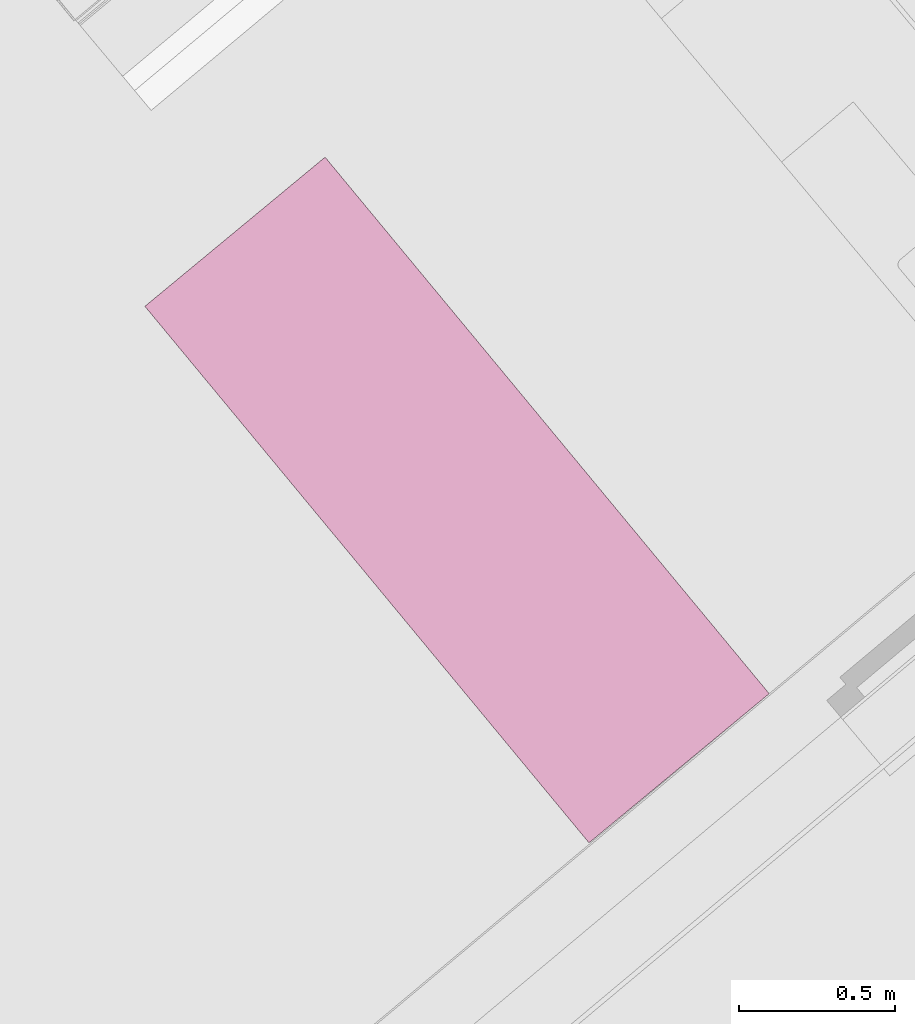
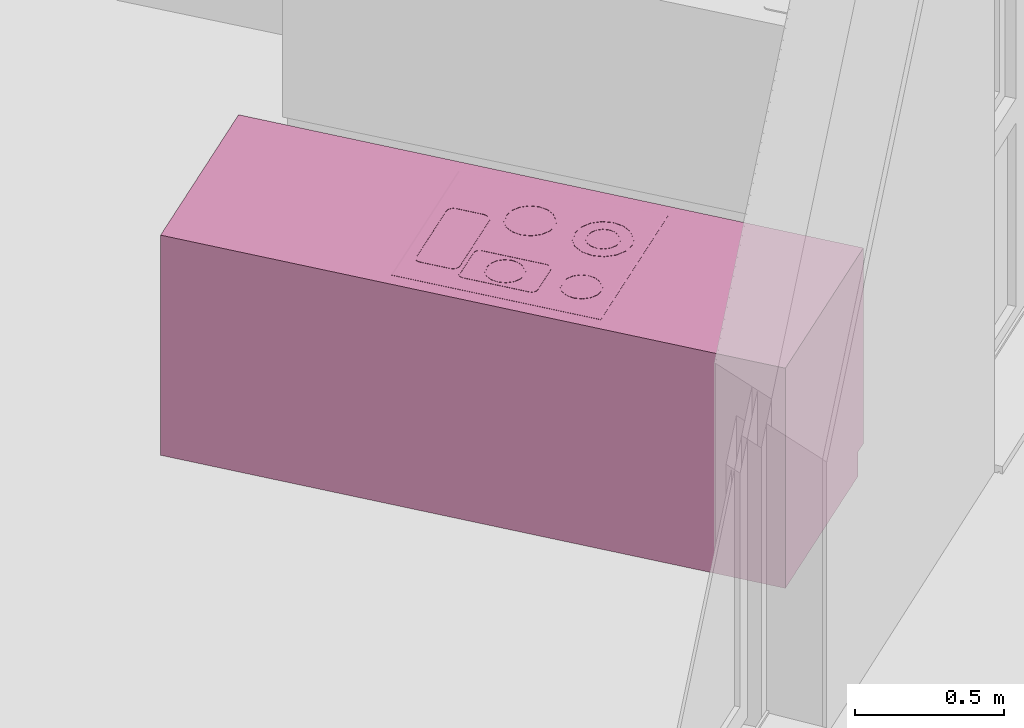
# One storey, part 49 of 50: 1 furniture element.
"""IFC4 building model written with IfcOpenShell, lengths in metres."""

import ifcopenshell
import ifcopenshell.guid

model = None  # the IFC model being written
_history = None  # IfcOwnerHistory: only IFC2X3 demands one
_inside = {}  # id of a spatial element -> (the spatial element, [elements in it])
_under = {}  # id of a project, library or spatial element -> (it, [spatial elements below it])
_declared = {}  # id of a project -> (the project, [libraries it declares])
_typed = {}  # id of a type object -> (the type object, [elements of that type])
_made_of = {}  # id of a material, layer set ... -> (it, [elements and type objects made of it])


def new_model(schema):
    """Start an empty IFC model of exactly this schema.

    Asked for "IFC4X3", IfcOpenShell would pick the latest addendum, in which some entities
    have other attributes; the version numbers below select the first issue.
    IFC2X3 requires an IfcOwnerHistory on every rooted entity: one is made here for all.
    """
    global model, _history
    if schema == "IFC4X3":
        model = ifcopenshell.file(schema_version=(4, 3, 0, 0))
    else:
        model = ifcopenshell.file(schema=schema)
    _inside.clear()
    _under.clear()
    _declared.clear()
    _typed.clear()
    _made_of.clear()
    _history = None
    if model.schema == "IFC2X3":
        org = make("IfcOrganization", Name="unknown")
        user = make(
            "IfcPersonAndOrganization",
            ThePerson=make("IfcPerson", FamilyName="unknown"),
            TheOrganization=org,
        )
        app = make(
            "IfcApplication",
            ApplicationDeveloper=org,
            Version="unknown",
            ApplicationFullName="unknown",
            ApplicationIdentifier="unknown",
        )
        _history = make(
            "IfcOwnerHistory",
            OwningUser=user,
            OwningApplication=app,
            ChangeAction="ADDED",
            CreationDate=0,
        )
    return model


def make(cls, **values):
    """One entity of the class cls with the attributes given. An attribute that is None is left unset."""
    return model.create_entity(
        cls, **{name: value for name, value in values.items() if value is not None}
    )


def entity(cls, *values):
    """Any entity or typed value of the class cls, its attributes in the order of the schema. None: left unset."""
    e = model.create_entity(cls)
    for i, value in enumerate(values):
        if value is not None:
            e[i] = value
    return e


def rooted(cls, **values):
    """An entity with a GlobalId (a new one), such as an element, a storey or a relation."""
    return make(cls, GlobalId=ifcopenshell.guid.new(), OwnerHistory=_history, **values)


def si_unit(unit_type, name, prefix=None):
    """IfcSIUnit, for example si_unit("LENGTHUNIT", "METRE", prefix="MILLI")."""
    return make("IfcSIUnit", UnitType=unit_type, Prefix=prefix, Name=name)


def converted_unit(unit_type, name, factor, base, dimensions=None, offset=None):
    """IfcConversionBasedUnit, such as the inch: factor (a typed value) times the base unit."""
    return make(
        "IfcConversionBasedUnit"
        if offset is None
        else "IfcConversionBasedUnitWithOffset",
        ConversionOffset=offset,
        Dimensions=None
        if dimensions is None
        else entity("IfcDimensionalExponents", *dimensions),
        UnitType=unit_type,
        Name=name,
        ConversionFactor=make(
            "IfcMeasureWithUnit", ValueComponent=factor, UnitComponent=base
        ),
    )


def derived_unit(unit_type, elements):
    """IfcDerivedUnit: a product of units, each with its exponent."""
    return make(
        "IfcDerivedUnit",
        Elements=[
            make("IfcDerivedUnitElement", Unit=unit, Exponent=power)
            for unit, power in elements
        ],
        UnitType=unit_type,
    )


def assignment(units):
    """IfcUnitAssignment: the units of a project."""
    return None if units is None else make("IfcUnitAssignment", Units=units)


def point(xyz):
    """IfcCartesianPoint."""
    return None if xyz is None else make("IfcCartesianPoint", Coordinates=xyz)


def direction(xyz):
    """IfcDirection."""
    return None if xyz is None else make("IfcDirection", DirectionRatios=xyz)


def frame(location, z_axis=None, x_axis=None):
    """IfcAxis2Placement3D, a coordinate frame: its origin and axes. An axis left out is left unset."""
    return make(
        "IfcAxis2Placement3D",
        Location=point(location),
        Axis=direction(z_axis),
        RefDirection=direction(x_axis),
    )


def origin_with_axes():
    """The frame at (0, 0, 0) with the z axis (0, 0, 1) and the x axis (1, 0, 0) written out."""
    return frame((0.0, 0.0, 0.0), z_axis=(0.0, 0.0, 1.0), x_axis=(1.0, 0.0, 0.0))


def place(relative_to, where):
    """IfcLocalPlacement: puts the frame where relative to a parent placement (None: the world)."""
    return make(
        "IfcLocalPlacement", PlacementRelTo=relative_to, RelativePlacement=where
    )


def context(
    kind, dimensions, precision=None, world=None, true_north=None, identifier=None
):
    """IfcGeometricRepresentationContext, for example the 3D "Model" context."""
    return make(
        "IfcGeometricRepresentationContext",
        ContextIdentifier=identifier,
        ContextType=kind,
        CoordinateSpaceDimension=dimensions,
        Precision=precision,
        WorldCoordinateSystem=world,
        TrueNorth=true_north,
    )


def subcontext(parent, identifier, kind, view, scale=None):
    """IfcGeometricRepresentationSubContext, for example "Body" below "Model"."""
    return make(
        "IfcGeometricRepresentationSubContext",
        ContextIdentifier=identifier,
        ContextType=kind,
        ParentContext=parent,
        TargetScale=scale,
        TargetView=view,
    )


def project(units=None, contexts=None):
    """IfcProject with its units and contexts."""
    return rooted(
        "IfcProject",
        Name="project",
        RepresentationContexts=contexts,
        UnitsInContext=assignment(units),
    )


def spatial(cls, under=None, at=None, **own):
    """A site, building, storey or space (cls), placed at a placement, below another one or the project."""
    s = rooted(cls, ObjectPlacement=at, **own)
    if under is not None:
        _under.setdefault(under.id(), (under, []))[1].append(s)
    return s


def point_list(points):
    """IfcCartesianPointList2D or 3D."""
    cls = (
        "IfcCartesianPointList2D" if len(points[0]) == 2 else "IfcCartesianPointList3D"
    )
    return make(cls, CoordList=points)


def polygons(points, faces, closed=None, point_numbers=None):
    """IfcPolygonalFaceSet: a face is its outer loop, then its inner loops; points numbered from 1."""
    made = []
    for loops in faces:
        if len(loops) == 1:
            made.append(make("IfcIndexedPolygonalFace", CoordIndex=loops[0]))
        else:
            made.append(
                make(
                    "IfcIndexedPolygonalFaceWithVoids",
                    CoordIndex=loops[0],
                    InnerCoordIndices=loops[1:],
                )
            )
    return make(
        "IfcPolygonalFaceSet",
        Coordinates=point_list(points),
        Closed=closed,
        Faces=made,
        PnIndex=point_numbers,
    )


def shape(context_of_items, identifier, shape_type, items):
    """IfcShapeRepresentation: the items that make up one representation, for example the "Body"."""
    return make(
        "IfcShapeRepresentation",
        ContextOfItems=context_of_items,
        RepresentationIdentifier=identifier,
        RepresentationType=shape_type,
        Items=items,
    )


def source(mapping_origin, context_of_items, identifier, shape_type, items):
    """IfcRepresentationMap: a shape defined once, which mapped items show again and again."""
    return make(
        "IfcRepresentationMap",
        MappingOrigin=mapping_origin,
        MappedRepresentation=shape(context_of_items, identifier, shape_type, items),
    )


def transform(
    local_origin,
    x_axis=None,
    y_axis=None,
    z_axis=None,
    scale=None,
    scale2=None,
    scale3=None,
    uniform=True,
):
    """IfcCartesianTransformationOperator3D, or its non-uniform kind. x_axis, y_axis, z_axis: its Axis1, 2, 3."""
    if uniform:
        return make(
            "IfcCartesianTransformationOperator3D",
            Axis1=direction(x_axis),
            Axis2=direction(y_axis),
            LocalOrigin=point(local_origin),
            Scale=scale,
            Axis3=direction(z_axis),
        )
    return make(
        "IfcCartesianTransformationOperator3DnonUniform",
        Axis1=direction(x_axis),
        Axis2=direction(y_axis),
        LocalOrigin=point(local_origin),
        Scale=scale,
        Axis3=direction(z_axis),
        Scale2=scale2,
        Scale3=scale3,
    )


def mapped(mapping_source, mapping_target):
    """IfcMappedItem: shows the shape of a source again, moved by a transform."""
    return make(
        "IfcMappedItem", MappingSource=mapping_source, MappingTarget=mapping_target
    )


def made_of(thing, what):
    """Note that an element or type object is made of a material, layer set ...; save() writes the relation."""
    if what is not None:
        _made_of.setdefault(what.id(), (what, []))[1].append(thing)
    return thing


def type_object(cls, material=None, **own):
    """A type object (cls), such as IfcWallType, which elements share."""
    return made_of(rooted(cls, **own), material)


def element(
    cls,
    number,
    at=None,
    inside=None,
    cuts=None,
    type_object=None,
    material=None,
    context=None,
    identifier="Body",
    shape_type=None,
    held_by="IfcProductDefinitionShape",
    body=None,
    shapes=None,
    **own,
):
    """One element of the class cls, such as IfcWall. Its Tag is "e" and its number.

    at: its placement. inside: the storey or other place that contains it. cuts: it is an
    opening in that element (IfcRelVoidsElement). A single representation is given by context,
    identifier, shape_type and body (its items); several are given by shapes. held_by: the class
    of the entity that holds the representations. save() writes the other relations.
    """
    e = rooted(cls, Tag="e%d" % number, ObjectPlacement=at, **own)
    if body is not None:
        shapes = [shape(context, identifier, shape_type, body)]
    if shapes is not None:
        e.Representation = make(held_by, Representations=shapes)
    if inside is not None:
        _inside.setdefault(inside.id(), (inside, []))[1].append(e)
    if cuts is not None:
        rooted(
            "IfcRelVoidsElement", RelatingBuildingElement=cuts, RelatedOpeningElement=e
        )
    if type_object is not None:
        _typed.setdefault(type_object.id(), (type_object, []))[1].append(e)
    return made_of(e, material)


def aggregate(whole, parts):
    """IfcRelAggregates: a whole, such as a stair, and the parts it consists of."""
    return rooted("IfcRelAggregates", RelatingObject=whole, RelatedObjects=parts)


def save(model, path):
    """Write the relations noted so far, then the file.

    IfcRelAggregates (storeys below a building ...), IfcRelContainedInSpatialStructure (elements
    in a storey), IfcRelDefinesByType, IfcRelAssociatesMaterial and IfcRelDeclares: one each for
    every whole, place, type object, material and project.
    """
    for whole, parts in _under.values():
        aggregate(whole, parts)
    for where, things in _inside.values():
        rooted(
            "IfcRelContainedInSpatialStructure",
            RelatedElements=things,
            RelatingStructure=where,
        )
    for kind, things in _typed.values():
        rooted("IfcRelDefinesByType", RelatedObjects=things, RelatingType=kind)
    for what, things in _made_of.values():
        rooted("IfcRelAssociatesMaterial", RelatedObjects=things, RelatingMaterial=what)
    for by, libraries in _declared.values():
        rooted("IfcRelDeclares", RelatingContext=by, RelatedDefinitions=libraries)
    model.write(path)


model = new_model("IFC4")

# Units and contexts
model_context = context("Model", 3, precision=1e-05, world=origin_with_axes(), true_north=direction((0.0, 1.0)))
body_context = subcontext(model_context, "Body", "Model", "MODEL_VIEW")
ifc_project = project(units=[si_unit("LENGTHUNIT", "METRE"), si_unit("AREAUNIT", "SQUARE_METRE"), si_unit("VOLUMEUNIT", "CUBIC_METRE"), converted_unit("PLANEANGLEUNIT", "DEGREE", entity("IfcPlaneAngleMeasure", 0.0174532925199), si_unit("PLANEANGLEUNIT", "RADIAN"), dimensions=[0, 0, 0, 0, 0, 0, 0]), converted_unit("TIMEUNIT", "Year", entity("IfcTimeMeasure", 31556926.0), si_unit("TIMEUNIT", "SECOND"), dimensions=[0, 0, 1, 0, 0, 0, 0]), si_unit("MASSUNIT", "GRAM", prefix="KILO"), si_unit("THERMODYNAMICTEMPERATUREUNIT", "DEGREE_CELSIUS"), si_unit("LUMINOUSINTENSITYUNIT", "LUMEN"), si_unit("ENERGYUNIT", "JOULE", prefix="MEGA"), derived_unit("THERMALCONDUCTANCEUNIT", [(si_unit("POWERUNIT", "WATT"), 1), (si_unit("LENGTHUNIT", "METRE"), -1), (si_unit("THERMODYNAMICTEMPERATUREUNIT", "KELVIN"), -1)]), derived_unit("SPECIFICHEATCAPACITYUNIT", [(si_unit("ENERGYUNIT", "JOULE"), 1), (si_unit("MASSUNIT", "GRAM", prefix="KILO"), -1), (si_unit("THERMODYNAMICTEMPERATUREUNIT", "KELVIN"), -1)]), derived_unit("MASSDENSITYUNIT", [(si_unit("MASSUNIT", "GRAM", prefix="KILO"), 1), (si_unit("VOLUMEUNIT", "CUBIC_METRE"), -1)])], contexts=[model_context])

# Site, building, storey, space
site_placement = place(None, frame((-0.00153261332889, -0.00661245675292, 0.0), z_axis=(0.0, 0.0, 1.0), x_axis=(1.0, 0.0, 0.0)))
site = spatial("IfcSite", under=ifc_project, at=site_placement, Name="Gelände", CompositionType="ELEMENT")
building_placement = place(site_placement, origin_with_axes())
building = spatial("IfcBuilding", under=site, at=building_placement, Name="Gebäude", CompositionType="ELEMENT")
storey_placement = place(building_placement, frame((0.0, 0.0, 8.66), z_axis=(0.0, 0.0, 1.0), x_axis=(1.0, 0.0, 0.0)))
storey = spatial("IfcBuildingStorey", under=building, at=storey_placement, Name="DG2", CompositionType="ELEMENT", Elevation=8.66)
space_placement = place(storey_placement, frame((-3.1056460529, 21.2099336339, 0.22), z_axis=(0.0, 0.0, 1.0), x_axis=(-0.767365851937, -0.641209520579, 0.0)))
space = spatial("IfcSpace", under=storey, at=space_placement, CompositionType="ELEMENT", PredefinedType="NOTDEFINED")

# Furniture
furniture_type = type_object("IfcFurnitureType", Name="Konzeptküche 26", AssemblyPlace="NOTDEFINED", PredefinedType="NOTDEFINED")
shared_shape = source(origin_with_axes(), body_context, "Body", "Tessellation", [
    polygons([(0.451386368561, 0.0111886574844, 0.0), (2.6840690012, -0.00300580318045, 0.0), (2.6840690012, -0.00300580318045, 0.1), (0.451386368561, 0.0111886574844, 0.1), (0.455836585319, 0.711174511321, 0.0), (2.68851921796, 0.696980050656, 0.0), (2.68851921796, 0.696980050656, 0.1), (0.455836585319, 0.711174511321, 0.1)], [[[1, 2, 3, 4]], [[1, 5, 6, 2]], [[2, 6, 7, 3]], [[4, 3, 7, 8]], [[5, 1, 4, 8]], [[6, 5, 8, 7]]], closed=True),
    polygons([(0.451386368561, 0.0111886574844, 0.85), (2.6840690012, -0.00300580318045, 0.85), (2.6840690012, -0.00300580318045, 0.9), (0.451386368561, 0.0111886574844, 0.9), (0.456154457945, 0.76117350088, 0.85), (2.68883709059, 0.746979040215, 0.85), (2.68883709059, 0.746979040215, 0.9), (0.456154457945, 0.76117350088, 0.9)], [[[1, 2, 3, 4]], [[1, 5, 6, 2]], [[2, 6, 7, 3]], [[4, 3, 7, 8]], [[5, 1, 4, 8]], [[6, 5, 8, 7]]], closed=True),
    polygons([(0.451386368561, 0.0111886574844, 0.1), (2.6840690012, -0.00300580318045, 0.1), (2.6840690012, -0.00300580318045, 0.85), (0.451386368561, 0.0111886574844, 0.85), (0.456154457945, 0.76117350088, 0.1), (2.68883709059, 0.746979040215, 0.1), (2.68883709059, 0.746979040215, 0.85), (0.456154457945, 0.76117350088, 0.85)], [[[1, 2, 3, 4]], [[1, 5, 6, 2]], [[2, 6, 7, 3]], [[4, 3, 7, 8]], [[5, 1, 4, 8]], [[6, 5, 8, 7]]], closed=True),
    polygons([(2.01007115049, 0.701293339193, 0.9), (2.00593880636, 0.0513064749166, 0.9), (1.25595396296, 0.0560745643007, 0.9), (1.26008630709, 0.706061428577, 0.9), (2.01007115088, 0.70129333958, 0.9008), (2.00593880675, 0.0513064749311, 0.9008), (1.25595396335, 0.0560745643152, 0.9008), (1.26008630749, 0.706061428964, 0.9008), (2.00322248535, 0.694531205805, 0.901999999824), (1.99917667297, 0.0581551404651, 0.901999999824), (1.26280262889, 0.0628366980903, 0.901999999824), (1.26684844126, 0.69921276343, 0.901999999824)], [[[1, 2, 3, 4]], [[2, 1, 5, 6]], [[3, 2, 6, 7]], [[4, 3, 7, 8]], [[1, 4, 8, 5]], [[6, 5, 9, 10]], [[7, 6, 10, 11]], [[8, 7, 11, 12]], [[5, 8, 12, 9]], [[11, 10, 9, 12]]], closed=True),
    polygons([(1.95268579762, 0.208298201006, 0.902), (1.94734355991, 0.236077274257, 0.902), (1.94734355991, 0.236077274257, 0.903), (1.95268579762, 0.208298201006, 0.903), (1.9469907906, 0.180589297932, 0.902), (1.93112555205, 0.157168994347, 0.902), (1.9075054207, 0.141602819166, 0.902), (1.87972634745, 0.136260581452, 0.902), (1.85201744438, 0.141955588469, 0.902), (1.82859714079, 0.157820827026, 0.902), (1.81303096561, 0.181440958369, 0.902), (1.8076887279, 0.20922003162, 0.902), (1.81338373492, 0.236928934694, 0.902), (1.82924897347, 0.260349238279, 0.902), (1.85286910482, 0.275915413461, 0.902), (1.88064817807, 0.281257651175, 0.902), (1.90835708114, 0.275562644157, 0.902), (1.93177738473, 0.259697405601, 0.902), (1.94768589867, 0.208329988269, 0.902), (1.94271209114, 0.234193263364, 0.902), (1.92821944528, 0.256184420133, 0.902), (1.90641433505, 0.270955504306, 0.902), (1.8806163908, 0.276257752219, 0.902), (1.85475311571, 0.271283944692, 0.902), (1.83276195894, 0.256791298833, 0.902), (1.81799087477, 0.234986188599, 0.902), (1.81268862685, 0.209188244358, 0.902), (1.81766243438, 0.183324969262, 0.902), (1.83215508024, 0.161333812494, 0.902), (1.85396019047, 0.146562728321, 0.902), (1.87975813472, 0.141260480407, 0.902), (1.90562140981, 0.146234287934, 0.902), (1.92761256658, 0.160726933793, 0.902), (1.94238365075, 0.182532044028, 0.902), (1.93177738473, 0.259697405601, 0.903), (1.90835708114, 0.275562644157, 0.903), (1.88064817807, 0.281257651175, 0.903), (1.85286910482, 0.275915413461, 0.903), (1.82924897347, 0.260349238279, 0.903), (1.81338373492, 0.236928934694, 0.903), (1.8076887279, 0.20922003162, 0.903), (1.81303096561, 0.181440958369, 0.903), (1.82859714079, 0.157820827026, 0.903), (1.85201744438, 0.141955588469, 0.903), (1.87972634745, 0.136260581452, 0.903), (1.9075054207, 0.141602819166, 0.903), (1.93112555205, 0.157168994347, 0.903), (1.9469907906, 0.180589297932, 0.903), (1.94768589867, 0.208329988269, 0.903), (1.94238365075, 0.182532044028, 0.903), (1.92761256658, 0.160726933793, 0.903), (1.90562140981, 0.146234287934, 0.903), (1.87975813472, 0.141260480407, 0.903), (1.85396019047, 0.146562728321, 0.903), (1.83215508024, 0.161333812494, 0.903), (1.81766243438, 0.183324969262, 0.903), (1.81268862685, 0.209188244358, 0.903), (1.81799087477, 0.234986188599, 0.903), (1.83276195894, 0.256791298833, 0.903), (1.85475311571, 0.271283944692, 0.903), (1.8806163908, 0.276257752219, 0.903), (1.90641433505, 0.270955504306, 0.903), (1.92821944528, 0.256184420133, 0.903), (1.94271209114, 0.234193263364, 0.903)], [[[1, 2, 3, 4]], [[1, 5, 6, 7, 8, 9, 10, 11, 12, 13, 14, 15, 16, 17, 18, 2], [19, 20, 21, 22, 23, 24, 25, 26, 27, 28, 29, 30, 31, 32, 33, 34]], [[2, 18, 35, 3]], [[4, 3, 35, 36, 37, 38, 39, 40, 41, 42, 43, 44, 45, 46, 47, 48], [49, 50, 51, 52, 53, 54, 55, 56, 57, 58, 59, 60, 61, 62, 63, 64]], [[5, 1, 4, 48]], [[6, 5, 48, 47]], [[7, 6, 47, 46]], [[8, 7, 46, 45]], [[9, 8, 45, 44]], [[10, 9, 44, 43]], [[11, 10, 43, 42]], [[12, 11, 42, 41]], [[13, 12, 41, 40]], [[14, 13, 40, 39]], [[15, 14, 39, 38]], [[16, 15, 38, 37]], [[17, 16, 37, 36]], [[18, 17, 36, 35]], [[20, 19, 49, 64]], [[21, 20, 64, 63]], [[22, 21, 63, 62]], [[23, 22, 62, 61]], [[24, 23, 61, 60]], [[25, 24, 60, 59]], [[26, 25, 59, 58]], [[27, 26, 58, 57]], [[28, 27, 57, 56]], [[29, 28, 56, 55]], [[30, 29, 55, 54]], [[31, 30, 54, 53]], [[32, 31, 53, 52]], [[33, 32, 52, 51]], [[34, 33, 51, 50]], [[19, 34, 50, 49]]], closed=True),
    polygons([(1.9127590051, 0.495207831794, 0.902), (1.90833784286, 0.518197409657, 0.902), (1.90833784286, 0.518197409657, 0.903), (1.9127590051, 0.495207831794, 0.903), (1.90804589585, 0.472276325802, 0.902), (1.89491604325, 0.452894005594, 0.902), (1.87536834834, 0.44001165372, 0.902), (1.85237877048, 0.435590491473, 0.902), (1.82944726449, 0.440303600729, 0.902), (1.81006494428, 0.453433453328, 0.902), (1.7971825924, 0.472981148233, 0.902), (1.79276143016, 0.495970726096, 0.902), (1.79747453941, 0.518902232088, 0.902), (1.81060439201, 0.538284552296, 0.902), (1.83015208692, 0.551166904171, 0.902), (1.85314166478, 0.555588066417, 0.902), (1.87607317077, 0.550874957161, 0.902), (1.89545549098, 0.537745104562, 0.902), (1.90775910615, 0.495239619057, 0.902), (1.90370637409, 0.516313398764, 0.902), (1.89189755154, 0.534232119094, 0.902), (1.87413042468, 0.546267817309, 0.902), (1.85310987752, 0.550588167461, 0.902), (1.83203609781, 0.546535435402, 0.902), (1.81411737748, 0.53472661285, 0.902), (1.80208167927, 0.516959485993, 0.902), (1.79776132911, 0.495938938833, 0.902), (1.80181406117, 0.474865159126, 0.902), (1.81362288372, 0.456946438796, 0.902), (1.83139001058, 0.444910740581, 0.902), (1.85241055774, 0.440590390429, 0.902), (1.87348433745, 0.444643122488, 0.902), (1.89140305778, 0.45645194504, 0.902), (1.90343875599, 0.474219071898, 0.902), (1.89545549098, 0.537745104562, 0.903), (1.87607317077, 0.550874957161, 0.903), (1.85314166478, 0.555588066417, 0.903), (1.83015208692, 0.551166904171, 0.903), (1.81060439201, 0.538284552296, 0.903), (1.79747453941, 0.518902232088, 0.903), (1.79276143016, 0.495970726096, 0.903), (1.7971825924, 0.472981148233, 0.903), (1.81006494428, 0.453433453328, 0.903), (1.82944726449, 0.440303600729, 0.903), (1.85237877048, 0.435590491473, 0.903), (1.87536834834, 0.44001165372, 0.903), (1.89491604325, 0.452894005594, 0.903), (1.90804589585, 0.472276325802, 0.903), (1.90775910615, 0.495239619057, 0.903), (1.90343875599, 0.474219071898, 0.903), (1.89140305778, 0.45645194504, 0.903), (1.87348433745, 0.444643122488, 0.903), (1.85241055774, 0.440590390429, 0.903), (1.83139001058, 0.444910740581, 0.903), (1.81362288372, 0.456946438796, 0.903), (1.80181406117, 0.474865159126, 0.903), (1.79776132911, 0.495938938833, 0.903), (1.80208167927, 0.516959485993, 0.903), (1.81411737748, 0.53472661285, 0.903), (1.83203609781, 0.546535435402, 0.903), (1.85310987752, 0.550588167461, 0.903), (1.87413042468, 0.546267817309, 0.903), (1.89189755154, 0.534232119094, 0.903), (1.90370637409, 0.516313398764, 0.903)], [[[1, 2, 3, 4]], [[1, 5, 6, 7, 8, 9, 10, 11, 12, 13, 14, 15, 16, 17, 18, 2], [19, 20, 21, 22, 23, 24, 25, 26, 27, 28, 29, 30, 31, 32, 33, 34]], [[2, 18, 35, 3]], [[4, 3, 35, 36, 37, 38, 39, 40, 41, 42, 43, 44, 45, 46, 47, 48], [49, 50, 51, 52, 53, 54, 55, 56, 57, 58, 59, 60, 61, 62, 63, 64]], [[5, 1, 4, 48]], [[6, 5, 48, 47]], [[7, 6, 47, 46]], [[8, 7, 46, 45]], [[9, 8, 45, 44]], [[10, 9, 44, 43]], [[11, 10, 43, 42]], [[12, 11, 42, 41]], [[13, 12, 41, 40]], [[14, 13, 40, 39]], [[15, 14, 39, 38]], [[16, 15, 38, 37]], [[17, 16, 37, 36]], [[18, 17, 36, 35]], [[20, 19, 49, 64]], [[21, 20, 64, 63]], [[22, 21, 63, 62]], [[23, 22, 62, 61]], [[24, 23, 61, 60]], [[25, 24, 60, 59]], [[26, 25, 59, 58]], [[27, 26, 58, 57]], [[28, 27, 57, 56]], [[29, 28, 56, 55]], [[30, 29, 55, 54]], [[31, 30, 54, 53]], [[32, 31, 53, 52]], [[33, 32, 52, 51]], [[34, 33, 51, 50]], [[19, 34, 50, 49]]], closed=True),
    polygons([(1.95775809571, 0.494921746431, 0.902), (1.95002106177, 0.535153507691, 0.902), (1.95002106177, 0.535153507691, 0.903), (1.95775809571, 0.494921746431, 0.903), (1.94951015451, 0.454791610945, 0.902), (1.92653291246, 0.420872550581, 0.902), (1.89232444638, 0.3983284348, 0.902), (1.85209268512, 0.39059140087, 0.902), (1.81196254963, 0.398839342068, 0.902), (1.77804348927, 0.421816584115, 0.902), (1.75549937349, 0.456025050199, 0.902), (1.74776233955, 0.496256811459, 0.902), (1.75601028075, 0.536386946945, 0.902), (1.7789875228, 0.57030600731, 0.902), (1.81319598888, 0.59285012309, 0.902), (1.85342775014, 0.60058715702, 0.902), (1.89355788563, 0.592339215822, 0.902), (1.92747694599, 0.569361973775, 0.902), (1.95275819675, 0.494953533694, 0.902), (1.94538959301, 0.533269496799, 0.902), (1.92391900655, 0.565848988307, 0.902), (1.89161513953, 0.587732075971, 0.902), (1.85339596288, 0.595587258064, 0.902), (1.81507999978, 0.588218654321, 0.902), (1.78250050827, 0.566748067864, 0.902), (1.7606174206, 0.53444420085, 0.902), (1.75276223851, 0.496225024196, 0.902), (1.76013084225, 0.457909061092, 0.902), (1.78160142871, 0.425329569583, 0.902), (1.81390529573, 0.403446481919, 0.902), (1.85212447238, 0.395591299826, 0.902), (1.89044043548, 0.402959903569, 0.902), (1.92301992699, 0.424430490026, 0.902), (1.94490301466, 0.456734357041, 0.902), (1.92747694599, 0.569361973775, 0.903), (1.89355788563, 0.592339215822, 0.903), (1.85342775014, 0.60058715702, 0.903), (1.81319598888, 0.59285012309, 0.903), (1.7789875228, 0.57030600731, 0.903), (1.75601028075, 0.536386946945, 0.903), (1.74776233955, 0.496256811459, 0.903), (1.75549937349, 0.456025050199, 0.903), (1.77804348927, 0.421816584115, 0.903), (1.81196254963, 0.398839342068, 0.903), (1.85209268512, 0.39059140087, 0.903), (1.89232444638, 0.3983284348, 0.903), (1.92653291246, 0.420872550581, 0.903), (1.94951015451, 0.454791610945, 0.903), (1.95275819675, 0.494953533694, 0.903), (1.94490301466, 0.456734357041, 0.903), (1.92301992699, 0.424430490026, 0.903), (1.89044043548, 0.402959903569, 0.903), (1.85212447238, 0.395591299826, 0.903), (1.81390529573, 0.403446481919, 0.903), (1.78160142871, 0.425329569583, 0.903), (1.76013084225, 0.457909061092, 0.903), (1.75276223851, 0.496225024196, 0.903), (1.7606174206, 0.53444420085, 0.903), (1.78250050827, 0.566748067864, 0.903), (1.81507999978, 0.588218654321, 0.903), (1.85339596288, 0.595587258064, 0.903), (1.89161513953, 0.587732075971, 0.903), (1.92391900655, 0.565848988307, 0.903), (1.94538959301, 0.533269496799, 0.903)], [[[1, 2, 3, 4]], [[1, 5, 6, 7, 8, 9, 10, 11, 12, 13, 14, 15, 16, 17, 18, 2], [19, 20, 21, 22, 23, 24, 25, 26, 27, 28, 29, 30, 31, 32, 33, 34]], [[2, 18, 35, 3]], [[4, 3, 35, 36, 37, 38, 39, 40, 41, 42, 43, 44, 45, 46, 47, 48], [49, 50, 51, 52, 53, 54, 55, 56, 57, 58, 59, 60, 61, 62, 63, 64]], [[5, 1, 4, 48]], [[6, 5, 48, 47]], [[7, 6, 47, 46]], [[8, 7, 46, 45]], [[9, 8, 45, 44]], [[10, 9, 44, 43]], [[11, 10, 43, 42]], [[12, 11, 42, 41]], [[13, 12, 41, 40]], [[14, 13, 40, 39]], [[15, 14, 39, 38]], [[16, 15, 38, 37]], [[17, 16, 37, 36]], [[18, 17, 36, 35]], [[20, 19, 49, 64]], [[21, 20, 64, 63]], [[22, 21, 63, 62]], [[23, 22, 62, 61]], [[24, 23, 61, 60]], [[25, 24, 60, 59]], [[26, 25, 59, 58]], [[27, 26, 58, 57]], [[28, 27, 57, 56]], [[29, 28, 56, 55]], [[30, 29, 55, 54]], [[31, 30, 54, 53]], [[32, 31, 53, 52]], [[33, 32, 52, 51]], [[34, 33, 51, 50]], [[19, 34, 50, 49]]], closed=True),
    polygons([(1.67867067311, 0.206790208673, 0.902), (1.67351265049, 0.233611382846, 0.902), (1.67351265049, 0.233611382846, 0.903), (1.67867067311, 0.206790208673, 0.903), (1.67317204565, 0.180036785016, 0.902), (1.65785388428, 0.157424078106, 0.902), (1.63504824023, 0.142394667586, 0.902), (1.60822706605, 0.137236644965, 0.902), (1.5814736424, 0.142735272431, 0.902), (1.55886093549, 0.158053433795, 0.902), (1.54383152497, 0.180859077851, 0.902), (1.53867350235, 0.207680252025, 0.902), (1.54417212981, 0.234433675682, 0.902), (1.55949029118, 0.257046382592, 0.902), (1.58229593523, 0.272075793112, 0.902), (1.60911710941, 0.277233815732, 0.902), (1.63587053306, 0.271735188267, 0.902), (1.65848323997, 0.256417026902, 0.902), (1.67367077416, 0.206821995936, 0.902), (1.66888118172, 0.231727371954, 0.902), (1.65492530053, 0.252904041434, 0.902), (1.63392778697, 0.267128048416, 0.902), (1.60908532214, 0.272233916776, 0.902), (1.58417994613, 0.267444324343, 0.902), (1.56300327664, 0.253488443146, 0.902), (1.54877926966, 0.232490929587, 0.902), (1.5436734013, 0.207648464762, 0.902), (1.54846299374, 0.182743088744, 0.902), (1.56241887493, 0.161566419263, 0.902), (1.58341638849, 0.147342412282, 0.902), (1.60825885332, 0.142236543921, 0.902), (1.63316422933, 0.147026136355, 0.902), (1.65434089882, 0.160982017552, 0.902), (1.6685649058, 0.181979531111, 0.902), (1.65848323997, 0.256417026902, 0.903), (1.63587053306, 0.271735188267, 0.903), (1.60911710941, 0.277233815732, 0.903), (1.58229593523, 0.272075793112, 0.903), (1.55949029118, 0.257046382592, 0.903), (1.54417212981, 0.234433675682, 0.903), (1.53867350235, 0.207680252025, 0.903), (1.54383152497, 0.180859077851, 0.903), (1.55886093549, 0.158053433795, 0.903), (1.5814736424, 0.142735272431, 0.903), (1.60822706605, 0.137236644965, 0.903), (1.63504824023, 0.142394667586, 0.903), (1.65785388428, 0.157424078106, 0.903), (1.67317204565, 0.180036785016, 0.903), (1.67367077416, 0.206821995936, 0.903), (1.6685649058, 0.181979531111, 0.903), (1.65434089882, 0.160982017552, 0.903), (1.63316422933, 0.147026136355, 0.903), (1.60825885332, 0.142236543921, 0.903), (1.58341638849, 0.147342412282, 0.903), (1.56241887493, 0.161566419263, 0.903), (1.54846299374, 0.182743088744, 0.903), (1.5436734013, 0.207648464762, 0.903), (1.54877926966, 0.232490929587, 0.903), (1.56300327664, 0.253488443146, 0.903), (1.58417994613, 0.267444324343, 0.903), (1.60908532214, 0.272233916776, 0.903), (1.63392778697, 0.267128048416, 0.903), (1.65492530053, 0.252904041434, 0.903), (1.66888118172, 0.231727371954, 0.903)], [[[1, 2, 3, 4]], [[1, 5, 6, 7, 8, 9, 10, 11, 12, 13, 14, 15, 16, 17, 18, 2], [19, 20, 21, 22, 23, 24, 25, 26, 27, 28, 29, 30, 31, 32, 33, 34]], [[2, 18, 35, 3]], [[4, 3, 35, 36, 37, 38, 39, 40, 41, 42, 43, 44, 45, 46, 47, 48], [49, 50, 51, 52, 53, 54, 55, 56, 57, 58, 59, 60, 61, 62, 63, 64]], [[5, 1, 4, 48]], [[6, 5, 48, 47]], [[7, 6, 47, 46]], [[8, 7, 46, 45]], [[9, 8, 45, 44]], [[10, 9, 44, 43]], [[11, 10, 43, 42]], [[12, 11, 42, 41]], [[13, 12, 41, 40]], [[14, 13, 40, 39]], [[15, 14, 39, 38]], [[16, 15, 38, 37]], [[17, 16, 37, 36]], [[18, 17, 36, 35]], [[20, 19, 49, 64]], [[21, 20, 64, 63]], [[22, 21, 63, 62]], [[23, 22, 62, 61]], [[24, 23, 61, 60]], [[25, 24, 60, 59]], [[26, 25, 59, 58]], [[27, 26, 58, 57]], [[28, 27, 57, 56]], [[29, 28, 56, 55]], [[30, 29, 55, 54]], [[31, 30, 54, 53]], [[32, 31, 53, 52]], [[33, 32, 52, 51]], [[34, 33, 51, 50]], [[19, 34, 50, 49]]], closed=True),
    polygons([(1.67698381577, 0.511657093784, 0.902), (1.6703520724, 0.546141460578, 0.902), (1.6703520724, 0.546141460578, 0.903), (1.67698381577, 0.511657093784, 0.903), (1.66991415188, 0.477259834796, 0.902), (1.65021937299, 0.448186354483, 0.902), (1.62089783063, 0.428862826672, 0.902), (1.58641346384, 0.422231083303, 0.902), (1.55201620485, 0.429300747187, 0.902), (1.52294272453, 0.448995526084, 0.902), (1.50361919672, 0.478317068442, 0.902), (1.49698745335, 0.512801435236, 0.902), (1.50405711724, 0.547198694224, 0.902), (1.52375189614, 0.576272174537, 0.902), (1.55307343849, 0.595595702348, 0.902), (1.58755780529, 0.602227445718, 0.902), (1.62195506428, 0.595157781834, 0.902), (1.65102854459, 0.575463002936, 0.902), (1.67198391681, 0.511688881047, 0.902), (1.66572060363, 0.544257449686, 0.902), (1.64747060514, 0.571950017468, 0.902), (1.62001231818, 0.590550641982, 0.902), (1.58752601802, 0.597227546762, 0.902), (1.55495744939, 0.590964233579, 0.902), (1.5272648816, 0.572714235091, 0.902), (1.50866425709, 0.545255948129, 0.902), (1.50198735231, 0.512769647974, 0.902), (1.50825066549, 0.480201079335, 0.902), (1.52650066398, 0.452508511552, 0.902), (1.55395895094, 0.433907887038, 0.902), (1.5864452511, 0.427230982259, 0.902), (1.61901381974, 0.433494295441, 0.902), (1.64670638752, 0.451744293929, 0.902), (1.66530701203, 0.479202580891, 0.902), (1.65102854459, 0.575463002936, 0.903), (1.62195506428, 0.595157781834, 0.903), (1.58755780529, 0.602227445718, 0.903), (1.55307343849, 0.595595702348, 0.903), (1.52375189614, 0.576272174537, 0.903), (1.50405711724, 0.547198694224, 0.903), (1.49698745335, 0.512801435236, 0.903), (1.50361919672, 0.478317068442, 0.903), (1.52294272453, 0.448995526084, 0.903), (1.55201620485, 0.429300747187, 0.903), (1.58641346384, 0.422231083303, 0.903), (1.62089783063, 0.428862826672, 0.903), (1.65021937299, 0.448186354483, 0.903), (1.66991415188, 0.477259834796, 0.903), (1.67198391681, 0.511688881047, 0.903), (1.66530701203, 0.479202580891, 0.903), (1.64670638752, 0.451744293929, 0.903), (1.61901381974, 0.433494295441, 0.903), (1.5864452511, 0.427230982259, 0.903), (1.55395895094, 0.433907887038, 0.903), (1.52650066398, 0.452508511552, 0.903), (1.50825066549, 0.480201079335, 0.903), (1.50198735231, 0.512769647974, 0.903), (1.50866425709, 0.545255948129, 0.903), (1.5272648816, 0.572714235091, 0.903), (1.55495744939, 0.590964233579, 0.903), (1.58752601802, 0.597227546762, 0.903), (1.62001231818, 0.590550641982, 0.903), (1.64747060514, 0.571950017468, 0.903), (1.66572060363, 0.544257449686, 0.903)], [[[1, 2, 3, 4]], [[1, 5, 6, 7, 8, 9, 10, 11, 12, 13, 14, 15, 16, 17, 18, 2], [19, 20, 21, 22, 23, 24, 25, 26, 27, 28, 29, 30, 31, 32, 33, 34]], [[2, 18, 35, 3]], [[4, 3, 35, 36, 37, 38, 39, 40, 41, 42, 43, 44, 45, 46, 47, 48], [49, 50, 51, 52, 53, 54, 55, 56, 57, 58, 59, 60, 61, 62, 63, 64]], [[5, 1, 4, 48]], [[6, 5, 48, 47]], [[7, 6, 47, 46]], [[8, 7, 46, 45]], [[9, 8, 45, 44]], [[10, 9, 44, 43]], [[11, 10, 43, 42]], [[12, 11, 42, 41]], [[13, 12, 41, 40]], [[14, 13, 40, 39]], [[15, 14, 39, 38]], [[16, 15, 38, 37]], [[17, 16, 37, 36]], [[18, 17, 36, 35]], [[20, 19, 49, 64]], [[21, 20, 64, 63]], [[22, 21, 63, 62]], [[23, 22, 62, 61]], [[24, 23, 61, 60]], [[25, 24, 60, 59]], [[26, 25, 59, 58]], [[27, 26, 58, 57]], [[28, 27, 57, 56]], [[29, 28, 56, 55]], [[30, 29, 55, 54]], [[31, 30, 54, 53]], [[32, 31, 53, 52]], [[33, 32, 52, 51]], [[34, 33, 51, 50]], [[19, 34, 50, 49]]], closed=True),
    polygons([(1.72815115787, 0.294201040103, 0.902), (1.49030841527, 0.295713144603, 0.902), (1.49030841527, 0.295713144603, 0.903), (1.72815115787, 0.294201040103, 0.903), (1.73655937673, 0.292472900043, 0.902), (1.74366622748, 0.287658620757, 0.902), (1.7483897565, 0.280491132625, 0.902), (1.75001084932, 0.272061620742, 0.902), (1.74917517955, 0.140617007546, 0.902), (1.74744703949, 0.132208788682, 0.902), (1.7426327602, 0.125101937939, 0.902), (1.73546527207, 0.120378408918, 0.902), (1.72703576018, 0.118757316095, 0.902), (1.48919301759, 0.120269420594, 0.902), (1.48078479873, 0.121997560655, 0.902), (1.47367794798, 0.126811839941, 0.902), (1.46895441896, 0.133979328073, 0.902), (1.46733332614, 0.142408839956, 0.902), (1.46816899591, 0.273853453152, 0.902), (1.46989713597, 0.282261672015, 0.902), (1.47471141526, 0.289368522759, 0.902), (1.48187890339, 0.294092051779, 0.902), (1.72406760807, 0.123776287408, 0.902), (1.73173080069, 0.125250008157, 0.902), (1.738246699, 0.129544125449, 0.902), (1.74262331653, 0.136004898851, 0.902), (1.74419435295, 0.143648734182, 0.902), (1.74499187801, 0.269093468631, 0.902), (1.74351815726, 0.276756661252, 0.902), (1.73922403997, 0.283272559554, 0.902), (1.73276326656, 0.287649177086, 0.902), (1.72511943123, 0.289220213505, 0.902), (1.49327656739, 0.290694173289, 0.902), (1.48561337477, 0.28922045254, 0.902), (1.47909747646, 0.284926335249, 0.902), (1.47472085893, 0.278465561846, 0.902), (1.47314982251, 0.270821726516, 0.902), (1.47235229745, 0.145376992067, 0.902), (1.4738260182, 0.137713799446, 0.902), (1.47812013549, 0.131197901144, 0.902), (1.4845809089, 0.126821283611, 0.902), (1.49222474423, 0.125250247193, 0.902), (1.48187890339, 0.294092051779, 0.903), (1.47471141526, 0.289368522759, 0.903), (1.46989713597, 0.282261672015, 0.903), (1.46816899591, 0.273853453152, 0.903), (1.46733332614, 0.142408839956, 0.903), (1.46895441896, 0.133979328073, 0.903), (1.47367794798, 0.126811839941, 0.903), (1.48078479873, 0.121997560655, 0.903), (1.48919301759, 0.120269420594, 0.903), (1.72703576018, 0.118757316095, 0.903), (1.73546527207, 0.120378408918, 0.903), (1.7426327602, 0.125101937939, 0.903), (1.74744703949, 0.132208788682, 0.903), (1.74917517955, 0.140617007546, 0.903), (1.75001084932, 0.272061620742, 0.903), (1.7483897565, 0.280491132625, 0.903), (1.74366622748, 0.287658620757, 0.903), (1.73655937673, 0.292472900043, 0.903), (1.72406760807, 0.123776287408, 0.903), (1.49222474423, 0.125250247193, 0.903), (1.4845809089, 0.126821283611, 0.903), (1.47812013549, 0.131197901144, 0.903), (1.4738260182, 0.137713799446, 0.903), (1.47235229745, 0.145376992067, 0.903), (1.47314982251, 0.270821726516, 0.903), (1.47472085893, 0.278465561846, 0.903), (1.47909747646, 0.284926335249, 0.903), (1.48561337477, 0.28922045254, 0.903), (1.49327656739, 0.290694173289, 0.903), (1.72511943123, 0.289220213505, 0.903), (1.73276326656, 0.287649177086, 0.903), (1.73922403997, 0.283272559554, 0.903), (1.74351815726, 0.276756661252, 0.903), (1.74499187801, 0.269093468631, 0.903), (1.74419435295, 0.143648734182, 0.903), (1.74262331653, 0.136004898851, 0.903), (1.738246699, 0.129544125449, 0.903), (1.73173080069, 0.125250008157, 0.903)], [[[1, 2, 3, 4]], [[1, 5, 6, 7, 8, 9, 10, 11, 12, 13, 14, 15, 16, 17, 18, 19, 20, 21, 22, 2], [23, 24, 25, 26, 27, 28, 29, 30, 31, 32, 33, 34, 35, 36, 37, 38, 39, 40, 41, 42]], [[2, 22, 43, 3]], [[4, 3, 43, 44, 45, 46, 47, 48, 49, 50, 51, 52, 53, 54, 55, 56, 57, 58, 59, 60], [61, 62, 63, 64, 65, 66, 67, 68, 69, 70, 71, 72, 73, 74, 75, 76, 77, 78, 79, 80]], [[5, 1, 4, 60]], [[6, 5, 60, 59]], [[7, 6, 59, 58]], [[8, 7, 58, 57]], [[9, 8, 57, 56]], [[10, 9, 56, 55]], [[11, 10, 55, 54]], [[12, 11, 54, 53]], [[13, 12, 53, 52]], [[14, 13, 52, 51]], [[15, 14, 51, 50]], [[16, 15, 50, 49]], [[17, 16, 49, 48]], [[18, 17, 48, 47]], [[19, 18, 47, 46]], [[20, 19, 46, 45]], [[21, 20, 45, 44]], [[22, 21, 44, 43]], [[24, 23, 61, 80]], [[25, 24, 80, 79]], [[26, 25, 79, 78]], [[27, 26, 78, 77]], [[28, 27, 77, 76]], [[29, 28, 76, 75]], [[30, 29, 75, 74]], [[31, 30, 74, 73]], [[32, 31, 73, 72]], [[33, 32, 72, 71]], [[34, 33, 71, 70]], [[35, 34, 70, 69]], [[36, 35, 69, 68]], [[37, 36, 68, 67]], [[38, 37, 67, 66]], [[39, 38, 66, 65]], [[40, 39, 65, 64]], [[41, 40, 64, 63]], [[42, 41, 63, 62]], [[23, 42, 62, 61]]], closed=True),
    polygons([(1.45676176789, 0.182500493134, 0.902), (1.45859271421, 0.470494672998, 0.902), (1.45859271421, 0.470494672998, 0.903), (1.45676176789, 0.182500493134, 0.903), (1.45471942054, 0.172563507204, 0.902), (1.44902981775, 0.16416450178, 0.902), (1.44055914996, 0.158582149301, 0.902), (1.43059699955, 0.156666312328, 0.902), (1.3225991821, 0.157352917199, 0.902), (1.31266219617, 0.159395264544, 0.902), (1.30426319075, 0.165084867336, 0.902), (1.29868083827, 0.173555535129, 0.902), (1.2967650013, 0.183517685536, 0.902), (1.29859594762, 0.4715118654, 0.902), (1.30063829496, 0.48144885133, 0.902), (1.30632789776, 0.489847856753, 0.902), (1.31479856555, 0.495430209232, 0.902), (1.32476071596, 0.497346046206, 0.902), (1.4327585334, 0.496659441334, 0.902), (1.44269551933, 0.49461709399, 0.902), (1.45109452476, 0.488927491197, 0.902), (1.45667687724, 0.480456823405, 0.902), (1.42562888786, 0.161697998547, 0.902), (1.43559103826, 0.16361383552, 0.902), (1.44406170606, 0.169196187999, 0.902), (1.44975130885, 0.177595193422, 0.902), (1.45179365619, 0.187532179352, 0.902), (1.45356102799, 0.465526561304, 0.902), (1.45164519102, 0.475488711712, 0.902), (1.44606283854, 0.483959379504, 0.902), (1.43766383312, 0.489648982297, 0.902), (1.42772684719, 0.491691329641, 0.902), (1.32972882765, 0.492314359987, 0.902), (1.31976667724, 0.490398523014, 0.902), (1.31129600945, 0.484816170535, 0.902), (1.30560640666, 0.476417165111, 0.902), (1.30356405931, 0.466480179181, 0.902), (1.30179668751, 0.188485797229, 0.902), (1.30371252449, 0.178523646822, 0.902), (1.30929487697, 0.17005297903, 0.902), (1.31769388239, 0.164363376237, 0.902), (1.32763086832, 0.162321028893, 0.902), (1.45667687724, 0.480456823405, 0.903), (1.45109452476, 0.488927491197, 0.903), (1.44269551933, 0.49461709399, 0.903), (1.4327585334, 0.496659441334, 0.903), (1.32476071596, 0.497346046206, 0.903), (1.31479856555, 0.495430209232, 0.903), (1.30632789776, 0.489847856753, 0.903), (1.30063829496, 0.48144885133, 0.903), (1.29859594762, 0.4715118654, 0.903), (1.2967650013, 0.183517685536, 0.903), (1.29868083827, 0.173555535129, 0.903), (1.30426319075, 0.165084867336, 0.903), (1.31266219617, 0.159395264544, 0.903), (1.3225991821, 0.157352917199, 0.903), (1.43059699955, 0.156666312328, 0.903), (1.44055914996, 0.158582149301, 0.903), (1.44902981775, 0.16416450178, 0.903), (1.45471942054, 0.172563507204, 0.903), (1.42562888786, 0.161697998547, 0.903), (1.32763086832, 0.162321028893, 0.903), (1.31769388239, 0.164363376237, 0.903), (1.30929487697, 0.17005297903, 0.903), (1.30371252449, 0.178523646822, 0.903), (1.30179668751, 0.188485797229, 0.903), (1.30356405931, 0.466480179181, 0.903), (1.30560640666, 0.476417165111, 0.903), (1.31129600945, 0.484816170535, 0.903), (1.31976667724, 0.490398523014, 0.903), (1.32972882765, 0.492314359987, 0.903), (1.42772684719, 0.491691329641, 0.903), (1.43766383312, 0.489648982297, 0.903), (1.44606283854, 0.483959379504, 0.903), (1.45164519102, 0.475488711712, 0.903), (1.45356102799, 0.465526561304, 0.903), (1.45179365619, 0.187532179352, 0.903), (1.44975130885, 0.177595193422, 0.903), (1.44406170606, 0.169196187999, 0.903), (1.43559103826, 0.16361383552, 0.903)], [[[1, 2, 3, 4]], [[1, 5, 6, 7, 8, 9, 10, 11, 12, 13, 14, 15, 16, 17, 18, 19, 20, 21, 22, 2], [23, 24, 25, 26, 27, 28, 29, 30, 31, 32, 33, 34, 35, 36, 37, 38, 39, 40, 41, 42]], [[2, 22, 43, 3]], [[4, 3, 43, 44, 45, 46, 47, 48, 49, 50, 51, 52, 53, 54, 55, 56, 57, 58, 59, 60], [61, 62, 63, 64, 65, 66, 67, 68, 69, 70, 71, 72, 73, 74, 75, 76, 77, 78, 79, 80]], [[5, 1, 4, 60]], [[6, 5, 60, 59]], [[7, 6, 59, 58]], [[8, 7, 58, 57]], [[9, 8, 57, 56]], [[10, 9, 56, 55]], [[11, 10, 55, 54]], [[12, 11, 54, 53]], [[13, 12, 53, 52]], [[14, 13, 52, 51]], [[15, 14, 51, 50]], [[16, 15, 50, 49]], [[17, 16, 49, 48]], [[18, 17, 48, 47]], [[19, 18, 47, 46]], [[20, 19, 46, 45]], [[21, 20, 45, 44]], [[22, 21, 44, 43]], [[24, 23, 61, 80]], [[25, 24, 80, 79]], [[26, 25, 79, 78]], [[27, 26, 78, 77]], [[28, 27, 77, 76]], [[29, 28, 76, 75]], [[30, 29, 75, 74]], [[31, 30, 74, 73]], [[32, 31, 73, 72]], [[33, 32, 72, 71]], [[34, 33, 71, 70]], [[35, 34, 70, 69]], [[36, 35, 69, 68]], [[37, 36, 68, 67]], [[38, 37, 67, 66]], [[39, 38, 66, 65]], [[40, 39, 65, 64]], [[41, 40, 64, 63]], [[42, 41, 63, 62]], [[23, 42, 62, 61]]], closed=True),
])
furniture_placement = place(space_placement, frame((0.339744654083, 3.39083974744, 0.0), z_axis=(0.0, 0.0, 1.0), x_axis=(-0.00175145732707, 0.999998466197, 0.0)))
element("IfcFurniture", 1, at=furniture_placement, inside=space, type_object=furniture_type, Name="Objekt-0002", PredefinedType="NOTDEFINED", context=body_context, shape_type="MappedRepresentation", body=[
    mapped(shared_shape, transform((0.0, 0.0, 0.0))),
])

save(model, "model.ifc")
